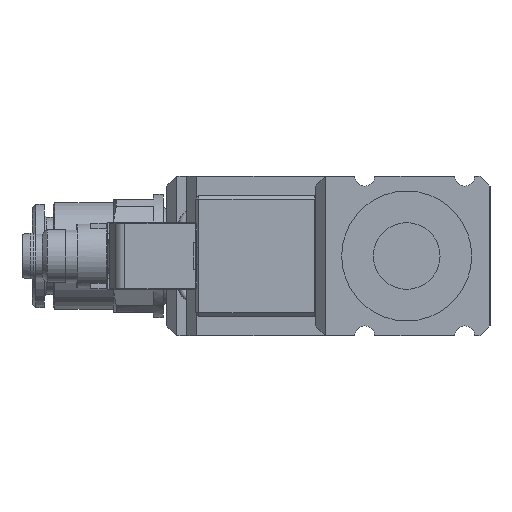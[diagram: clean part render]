
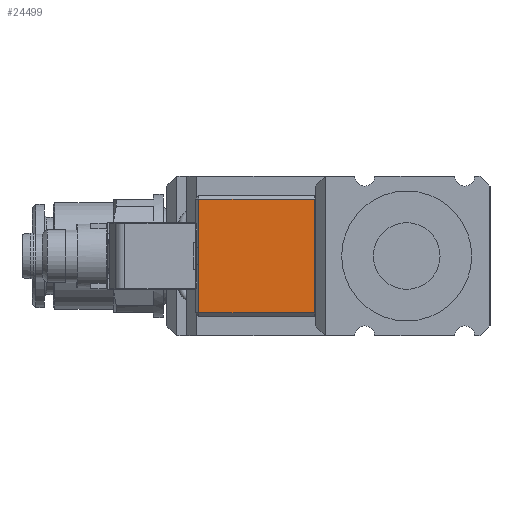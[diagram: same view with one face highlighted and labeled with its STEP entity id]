
A CAD part, left-side view. The second image highlights one B-rep face of the part: STEP entity #24499.
In plain terms, the highlighted planar face has unit normal (-1, 0, 0).
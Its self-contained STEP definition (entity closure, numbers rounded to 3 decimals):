
#21 = DIRECTION ( 'NONE',  ( 0., 1., 0. ) ) ;
#2365 = CARTESIAN_POINT ( 'NONE',  ( -60.7, 31.2, 8.55 ) ) ;
#3404 = FACE_OUTER_BOUND ( 'NONE', #6082, .T. ) ;
#4077 = ORIENTED_EDGE ( 'NONE', *, *, #27601, .T. ) ;
#4484 = VERTEX_POINT ( 'NONE', #39427 ) ;
#6082 = EDGE_LOOP ( 'NONE', ( #4077, #26547, #21805, #18133 ) ) ;
#7110 = VERTEX_POINT ( 'NONE', #40751 ) ;
#7196 = DIRECTION ( 'NONE',  ( 0., 1., 0. ) ) ;
#8729 = VECTOR ( 'NONE', #31861, 1000. ) ;
#13486 = DIRECTION ( 'NONE',  ( 0., -1., 0. ) ) ;
#16776 = CARTESIAN_POINT ( 'NONE',  ( -60.7, 22.5, 0. ) ) ;
#16987 = CARTESIAN_POINT ( 'NONE',  ( -60.7, 31.2, -9.05 ) ) ;
#18133 = ORIENTED_EDGE ( 'NONE', *, *, #29126, .T. ) ;
#20120 = LINE ( 'NONE', #16987, #20209 ) ;
#20209 = VECTOR ( 'NONE', #30212, 1000. ) ;
#20658 = CARTESIAN_POINT ( 'NONE',  ( -60.7, 13.8, 9.05 ) ) ;
#21753 = VECTOR ( 'NONE', #7196, 1000. ) ;
#21805 = ORIENTED_EDGE ( 'NONE', *, *, #30793, .T. ) ;
#24499 = ADVANCED_FACE ( 'NONE', ( #3404 ), #36687, .T. ) ;
#26547 = ORIENTED_EDGE ( 'NONE', *, *, #26978, .T. ) ;
#26978 = EDGE_CURVE ( 'NONE', #4484, #41846, #29598, .T. ) ;
#27601 = EDGE_CURVE ( 'NONE', #42057, #4484, #20120, .T. ) ;
#27746 = LINE ( 'NONE', #35092, #21753 ) ;
#29126 = EDGE_CURVE ( 'NONE', #7110, #42057, #27746, .T. ) ;
#29598 = LINE ( 'NONE', #40508, #37305 ) ;
#30212 = DIRECTION ( 'NONE',  ( 0., 0., -1. ) ) ;
#30793 = EDGE_CURVE ( 'NONE', #41846, #7110, #31001, .T. ) ;
#31001 = LINE ( 'NONE', #20658, #8729 ) ;
#31861 = DIRECTION ( 'NONE',  ( 0., 0., 1. ) ) ;
#35092 = CARTESIAN_POINT ( 'NONE',  ( -60.7, 31.7, 8.55 ) ) ;
#36687 = PLANE ( 'NONE',  #38032 ) ;
#37305 = VECTOR ( 'NONE', #13486, 1000. ) ;
#38032 = AXIS2_PLACEMENT_3D ( 'NONE', #16776, #43821, #21 ) ;
#39427 = CARTESIAN_POINT ( 'NONE',  ( -60.7, 31.2, -8.55 ) ) ;
#40508 = CARTESIAN_POINT ( 'NONE',  ( -60.7, 13.3, -8.55 ) ) ;
#40751 = CARTESIAN_POINT ( 'NONE',  ( -60.7, 13.8, 8.55 ) ) ;
#41846 = VERTEX_POINT ( 'NONE', #41861 ) ;
#41861 = CARTESIAN_POINT ( 'NONE',  ( -60.7, 13.8, -8.55 ) ) ;
#42057 = VERTEX_POINT ( 'NONE', #2365 ) ;
#43821 = DIRECTION ( 'NONE',  ( -1., 0., 0. ) ) ;
